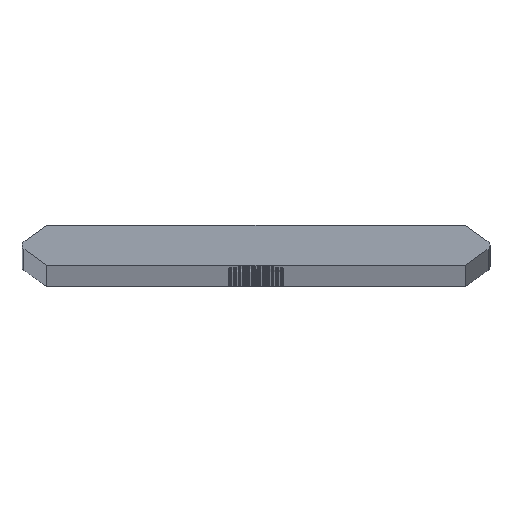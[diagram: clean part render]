
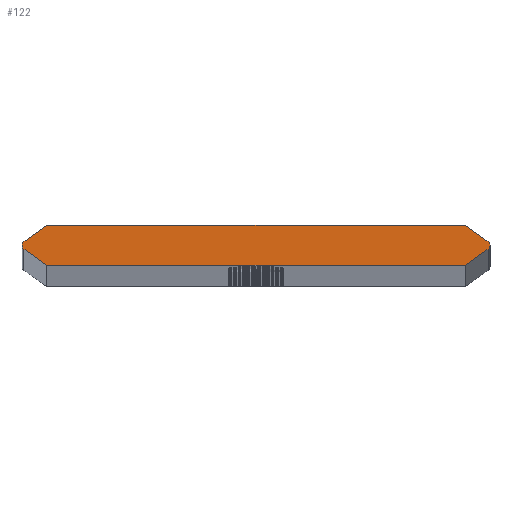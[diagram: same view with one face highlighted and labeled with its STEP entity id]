
A CAD part, top view. The second image highlights one B-rep face of the part: STEP entity #122.
In plain terms, the highlighted planar face has unit normal (0, 0, 1).
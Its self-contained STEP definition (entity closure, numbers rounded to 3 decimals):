
#122=ADVANCED_FACE('',(#226),#227,.T.);
#226=FACE_OUTER_BOUND('',#382,.T.);
#227=PLANE('',#383);
#382=EDGE_LOOP('',(#773,#774,#775,#776,#777,#778,#779,#780,#781,#782));
#383=AXIS2_PLACEMENT_3D('',#783,#784,#785);
#773=ORIENTED_EDGE('',*,*,#941,.T.);
#774=ORIENTED_EDGE('',*,*,#1078,.T.);
#775=ORIENTED_EDGE('',*,*,#1079,.F.);
#776=ORIENTED_EDGE('',*,*,#1080,.F.);
#777=ORIENTED_EDGE('',*,*,#1081,.F.);
#778=ORIENTED_EDGE('',*,*,#937,.T.);
#779=ORIENTED_EDGE('',*,*,#1082,.T.);
#780=ORIENTED_EDGE('',*,*,#1083,.F.);
#781=ORIENTED_EDGE('',*,*,#1084,.F.);
#782=ORIENTED_EDGE('',*,*,#1085,.F.);
#783=CARTESIAN_POINT('',(0.,0.,1976.0));
#784=DIRECTION('',(0.0,0.0,1.0));
#785=DIRECTION('',(1.0,0.0,0.0));
#937=EDGE_CURVE('',#1101,#1098,#1102,.T.);
#941=EDGE_CURVE('',#1109,#1106,#1110,.T.);
#1078=EDGE_CURVE('',#1106,#1336,#1338,.T.);
#1079=EDGE_CURVE('',#1339,#1336,#1340,.T.);
#1080=EDGE_CURVE('',#1341,#1339,#1342,.T.);
#1081=EDGE_CURVE('',#1101,#1341,#1343,.T.);
#1082=EDGE_CURVE('',#1098,#1344,#1345,.T.);
#1083=EDGE_CURVE('',#1346,#1344,#1347,.T.);
#1084=EDGE_CURVE('',#1348,#1346,#1349,.T.);
#1085=EDGE_CURVE('',#1109,#1348,#1350,.T.);
#1098=VERTEX_POINT('',#1368);
#1101=VERTEX_POINT('',#1372);
#1102=CIRCLE('',#1373,0.76);
#1106=VERTEX_POINT('',#1378);
#1109=VERTEX_POINT('',#1382);
#1110=CIRCLE('',#1383,0.76);
#1336=VERTEX_POINT('',#1654);
#1338=CIRCLE('',#1657,0.76);
#1339=VERTEX_POINT('',#1658);
#1340=LINE('',#1659,#1660);
#1341=VERTEX_POINT('',#1661);
#1342=LINE('',#1662,#1663);
#1343=LINE('',#1664,#1665);
#1344=VERTEX_POINT('',#1666);
#1345=CIRCLE('',#1667,0.76);
#1346=VERTEX_POINT('',#1668);
#1347=LINE('',#1669,#1670);
#1348=VERTEX_POINT('',#1671);
#1349=LINE('',#1672,#1673);
#1350=LINE('',#1674,#1675);
#1368=CARTESIAN_POINT('',(37.84,0.,1976.0));
#1372=CARTESIAN_POINT('',(37.519,-0.62,1976.0));
#1373=AXIS2_PLACEMENT_3D('',#1705,#1706,#1707);
#1378=CARTESIAN_POINT('',(-37.84,0.,1976.0));
#1382=CARTESIAN_POINT('',(-37.519,0.62,1976.0));
#1383=AXIS2_PLACEMENT_3D('',#1713,#1714,#1715);
#1654=CARTESIAN_POINT('',(-37.519,-0.62,1976.0));
#1657=AXIS2_PLACEMENT_3D('',#2032,#2033,#2034);
#1658=CARTESIAN_POINT('',(-33.821,-3.21,1976.0));
#1659=CARTESIAN_POINT('',(-38.405,0.,1976.0));
#1660=VECTOR('',#2035,1.0);
#1661=CARTESIAN_POINT('',(33.821,-3.21,1976.0));
#1662=CARTESIAN_POINT('',(33.821,-3.21,1976.0));
#1663=VECTOR('',#2036,1.0);
#1664=CARTESIAN_POINT('',(38.405,0.0,1976.0));
#1665=VECTOR('',#2037,1.0);
#1666=CARTESIAN_POINT('',(37.519,0.62,1976.0));
#1667=AXIS2_PLACEMENT_3D('',#2038,#2039,#2040);
#1668=CARTESIAN_POINT('',(33.821,3.21,1976.0));
#1669=CARTESIAN_POINT('',(38.405,0.0,1976.0));
#1670=VECTOR('',#2041,1.0);
#1671=CARTESIAN_POINT('',(-33.821,3.21,1976.0));
#1672=CARTESIAN_POINT('',(-33.821,3.21,1976.0));
#1673=VECTOR('',#2042,1.0);
#1674=CARTESIAN_POINT('',(-38.405,0.,1976.0));
#1675=VECTOR('',#2043,1.0);
#1705=CARTESIAN_POINT('',(37.08,0.0,1976.0));
#1706=DIRECTION('',(0.0,0.0,1.0));
#1707=DIRECTION('',(1.0,0.0,0.0));
#1713=CARTESIAN_POINT('',(-37.08,0.,1976.0));
#1714=DIRECTION('',(0.0,0.0,1.0));
#1715=DIRECTION('',(-1.0,0.,0.0));
#2032=CARTESIAN_POINT('',(-37.08,0.,1976.0));
#2033=DIRECTION('',(0.0,0.0,1.0));
#2034=DIRECTION('',(-1.0,0.,0.0));
#2035=DIRECTION('',(-0.819,0.574,0.0));
#2036=DIRECTION('',(-1.0,0.,0.0));
#2037=DIRECTION('',(-0.819,-0.574,0.0));
#2038=CARTESIAN_POINT('',(37.08,0.0,1976.0));
#2039=DIRECTION('',(0.0,0.0,1.0));
#2040=DIRECTION('',(1.0,0.0,0.0));
#2041=DIRECTION('',(0.819,-0.574,0.0));
#2042=DIRECTION('',(1.0,0.,0.0));
#2043=DIRECTION('',(0.819,0.574,0.0));
